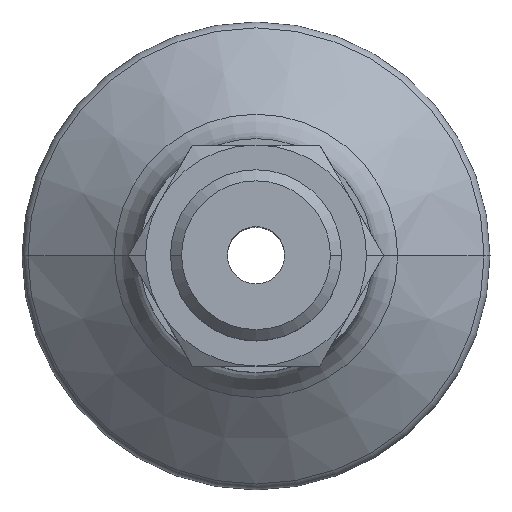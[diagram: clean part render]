
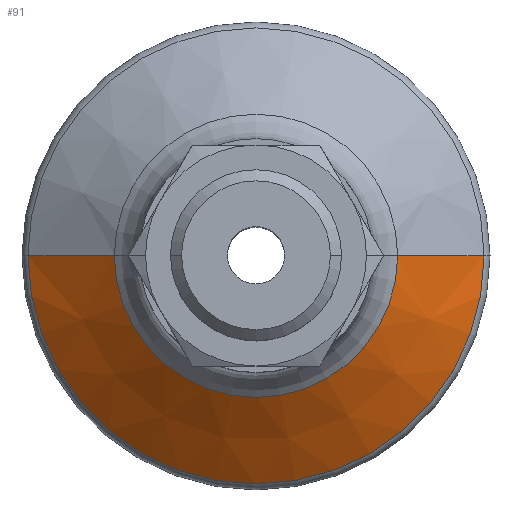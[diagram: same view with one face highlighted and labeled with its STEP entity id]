
A CAD part, top view. The second image highlights one B-rep face of the part: STEP entity #91.
In plain terms, the highlighted conical face has half-angle 51.622 degrees and reference radius 14.22 mm.
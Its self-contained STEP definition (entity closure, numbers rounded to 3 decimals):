
#91=ADVANCED_FACE('',(#190),#191,.T.);
#190=FACE_OUTER_BOUND('',#359,.T.);
#191=CONICAL_SURFACE('',#360,14.22,0.901);
#359=EDGE_LOOP('',(#609,#610,#611,#612));
#360=AXIS2_PLACEMENT_3D('',#613,#614,#615);
#609=ORIENTED_EDGE('',*,*,#1153,.F.);
#610=ORIENTED_EDGE('',*,*,#1154,.T.);
#611=ORIENTED_EDGE('',*,*,#1155,.F.);
#612=ORIENTED_EDGE('',*,*,#1118,.F.);
#613=CARTESIAN_POINT('',(0.0,0.0,12.879));
#614=DIRECTION('',(0.0,-0.0,-1.0));
#615=DIRECTION('',(1.0,0.0,0.0));
#1118=EDGE_CURVE('',#1311,#1313,#1314,.T.);
#1153=EDGE_CURVE('',#1365,#1311,#1366,.T.);
#1154=EDGE_CURVE('',#1365,#1367,#1368,.T.);
#1155=EDGE_CURVE('',#1313,#1367,#1369,.T.);
#1311=VERTEX_POINT('',#1614);
#1313=VERTEX_POINT('',#1616);
#1314=CIRCLE('',#1617,17.545);
#1365=VERTEX_POINT('',#1676);
#1366=LINE('',#1677,#1678);
#1367=VERTEX_POINT('',#1679);
#1368=CIRCLE('',#1680,10.895);
#1369=LINE('',#1681,#1682);
#1614=CARTESIAN_POINT('',(17.545,0.0,10.245));
#1616=CARTESIAN_POINT('',(-17.545,0.,10.245));
#1617=AXIS2_PLACEMENT_3D('',#2195,#2196,#2197);
#1676=CARTESIAN_POINT('',(10.895,0.0,15.512));
#1677=CARTESIAN_POINT('',(14.22,0.,12.879));
#1678=VECTOR('',#2284,1.0);
#1679=CARTESIAN_POINT('',(-10.895,0.,15.512));
#1680=AXIS2_PLACEMENT_3D('',#2285,#2286,#2287);
#1681=CARTESIAN_POINT('',(-14.22,0.,12.879));
#1682=VECTOR('',#2288,1.0);
#2195=CARTESIAN_POINT('',(0.0,0.0,10.245));
#2196=DIRECTION('',(0.0,0.0,-1.0));
#2197=DIRECTION('',(1.0,0.0,0.0));
#2284=DIRECTION('',(0.784,0.,-0.621));
#2285=CARTESIAN_POINT('',(0.0,0.0,15.512));
#2286=DIRECTION('',(0.0,0.0,-1.0));
#2287=DIRECTION('',(1.0,0.0,0.0));
#2288=DIRECTION('',(0.784,0.,0.621));
